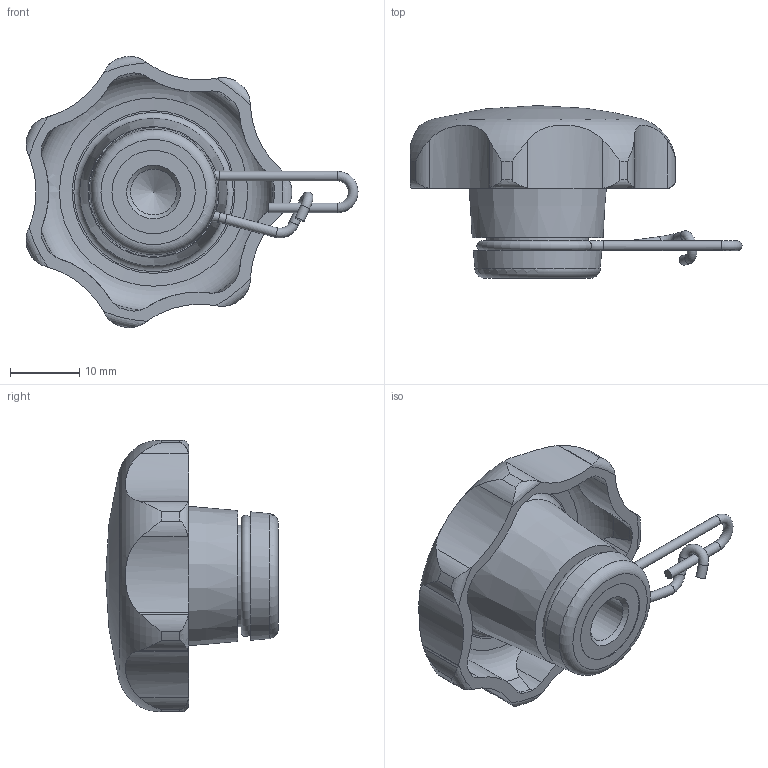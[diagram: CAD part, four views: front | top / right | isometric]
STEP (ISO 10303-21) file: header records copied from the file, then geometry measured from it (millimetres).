
FILE_DESCRIPTION( ( 'STEP AP203' ), '1' );
FILE_NAME( 'C:/Temp/Ganter_Step_05_03_2020/data/2_2/gn_6336_13/gn_6336_13_1/Star knob GN 6336.13-40-M8-A.stp', '2020-03-05T12:10:36', ( 'License CC BY-ND 4.0' ), ( 'CADENAS' ), ' ', 'PARTsolutions', ' ' );
FILE_SCHEMA( ( 'CONFIG_CONTROL_DESIGN' ) );
Length unit declared in the file: millimetre
Products named in the file (1): _Star knob GN 6336.13-40-M8-A
Bounding box: 48.08 x 25 x 39.31 mm (x, y, z)
Volume: 10651 mm3; surface area: 5903.9 mm2
Topology: 1 solids, 1 shells, 116 faces, 317 edges, 207 vertices
Faces by surface type: cylinder 74, torus 18, cone 12, plane 11, sphere 1
Full cylindrical faces by diameter (mm): 1.4 x5, 6.647 x1, 12.05 x1, 14.7 x1
Entity records: 4270 total; most frequent: CARTESIAN_POINT 1534, ORIENTED_EDGE 568, DIRECTION 524, EDGE_CURVE 284, AXIS2_PLACEMENT_3D 226, VERTEX_POINT 202, EDGE_LOOP 144, FACE_OUTER_BOUND 134
